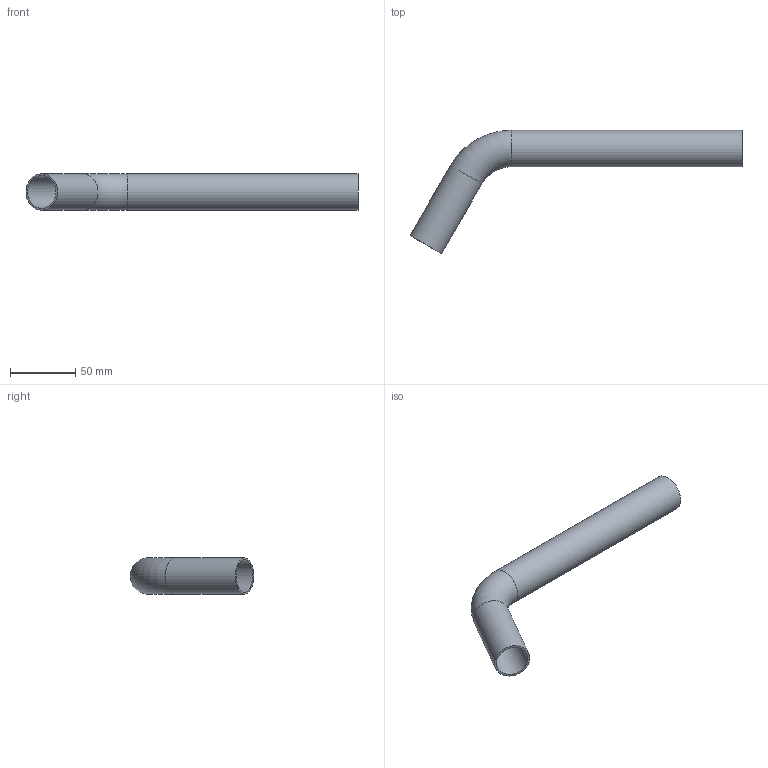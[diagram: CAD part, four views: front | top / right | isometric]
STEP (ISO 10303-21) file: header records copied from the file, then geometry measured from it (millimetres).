
FILE_DESCRIPTION((''),'2;1');
FILE_NAME('G:\Technics\CAD\Bauteile\028\6905828(1).stp','2008-02-25T08:39:22',('herberg'),(''),'Autodesk Inventor 2008','Autodesk Inventor 2008','');
FILE_SCHEMA(('AUTOMOTIVE_DESIGN { 1 0 10303 214 1 1 1 1 }'));
Length unit declared in the file: millimetre
Products named in the file (1): 6905828(1)
Bounding box: 254.62 x 94.61 x 28 mm (x, y, z)
Volume: 35053.3 mm3; surface area: 46987.5 mm2
Topology: 1 solids, 1 shells, 8 faces, 14 edges, 8 vertices
Faces by surface type: cylinder 4, torus 2, plane 2
Full cylindrical faces by diameter (mm): 25 x2, 28 x2
Entity records: 194 total; most frequent: DIRECTION 34, CARTESIAN_POINT 25, AXIS2_PLACEMENT_3D 17, ORIENTED_EDGE 16, EDGE_LOOP 16, VERTEX_POINT 8, CIRCLE 8, EDGE_CURVE 8
